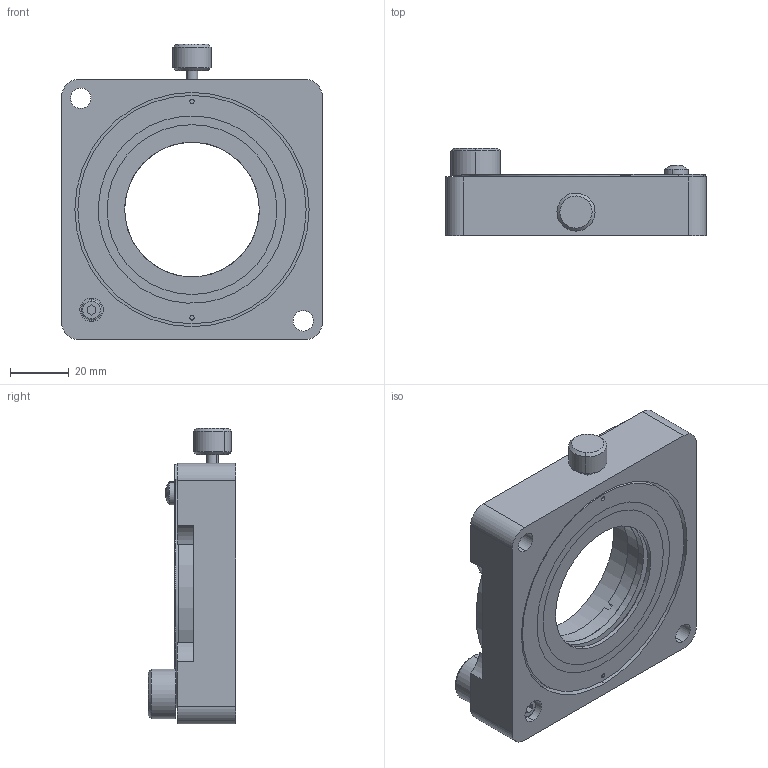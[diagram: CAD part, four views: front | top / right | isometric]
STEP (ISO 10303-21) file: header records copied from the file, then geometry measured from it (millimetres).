
FILE_DESCRIPTION (( 'STEP AP203' ), '1' );
FILE_NAME ('7SRM490Ðý×ªÌ¨.STEP', '2021-09-13T01:14:10', ( '' ), ( '' ), 'SwSTEP 2.0', 'SolidWorks 2018', '' );
FILE_SCHEMA (( 'CONFIG_CONTROL_DESIGN' ));
Products named in the file (1): 7SRM490唅蛌怢
Bounding box: 89 x 30 x 101 mm (x, y, z)
Surface area: 38089.1 mm2 (no closed solid volume)
Topology: 0 solids, 28 shells, 1624 faces, 6588 edges, 4639 vertices
Faces by surface type: plane 1276, bspline 255, cylinder 75, torus 10, cone 6, sphere 2
Entity records: 87597 total; most frequent: CARTESIAN_POINT 36009, ORIENTED_EDGE 10483, DIRECTION 9409, EDGE_CURVE 6588, VECTOR 4669, LINE 4669, VERTEX_POINT 4639, AXIS2_PLACEMENT_3D 2370
